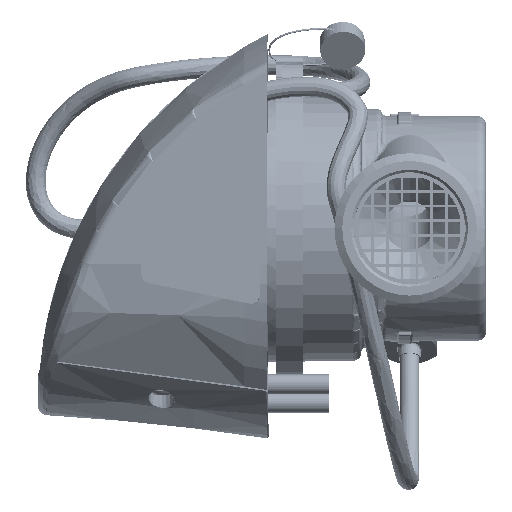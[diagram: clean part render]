
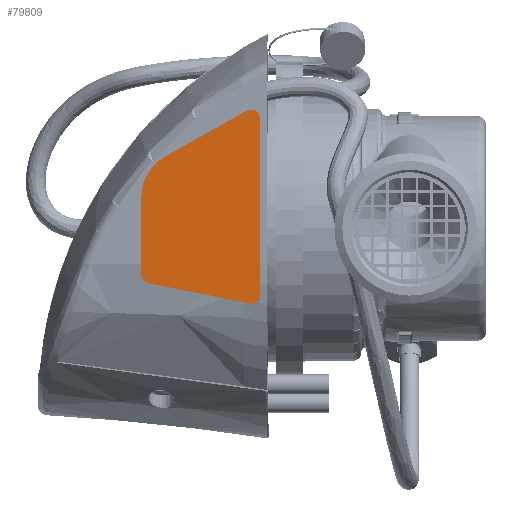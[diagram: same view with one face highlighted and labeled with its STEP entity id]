
A CAD part, left-side view. The second image highlights one B-rep face of the part: STEP entity #79809.
In plain terms, the highlighted planar face has unit normal (-0.995, 0.104, 0).
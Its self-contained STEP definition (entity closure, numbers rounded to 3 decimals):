
#2331 = CARTESIAN_POINT ( 'NONE',  ( -38.438, 52.261, 24.384 ) ) ;
#6112 = EDGE_CURVE ( 'NONE', #181382, #23254, #54017, .T. ) ;
#6840 = CARTESIAN_POINT ( 'NONE',  ( -38.438, 52.261, -14.765 ) ) ;
#15173 = ORIENTED_EDGE ( 'NONE', *, *, #150822, .T. ) ;
#16205 = EDGE_CURVE ( 'NONE', #27692, #66220, #62624, .T. ) ;
#23254 = VERTEX_POINT ( 'NONE', #149036 ) ;
#27692 = VERTEX_POINT ( 'NONE', #84338 ) ;
#27837 = CARTESIAN_POINT ( 'NONE',  ( -35.88, 76.599, -10.254 ) ) ;
#29046 = DIRECTION ( 'NONE',  ( -0.995, 0.105, 0. ) ) ;
#30438 = EDGE_LOOP ( 'NONE', ( #140491, #181009, #270239, #121936, #201007, #245493, #69536, #263355, #15173 ) ) ;
#31601 = AXIS2_PLACEMENT_3D ( 'NONE', #273623, #252624, #226010 ) ;
#33025 = CARTESIAN_POINT ( 'NONE',  ( -38.647, 50.272, -14.765 ) ) ;
#44849 = DIRECTION ( 'NONE',  ( -0.995, 0.105, 0. ) ) ;
#50017 = DIRECTION ( 'NONE',  ( 0., 0., 1. ) ) ;
#51656 = PLANE ( 'NONE',  #58661 ) ;
#54017 = LINE ( 'NONE', #33025, #220942 ) ;
#55780 = CARTESIAN_POINT ( 'NONE',  ( -38.438, 52.261, -14.765 ) ) ;
#58661 = AXIS2_PLACEMENT_3D ( 'NONE', #179858, #92509, #247397 ) ;
#62624 = CIRCLE ( 'NONE', #85171, 10. ) ;
#66220 = VERTEX_POINT ( 'NONE', #71122 ) ;
#67026 = DIRECTION ( 'NONE',  ( -0.995, 0.105, 0. ) ) ;
#69536 = ORIENTED_EDGE ( 'NONE', *, *, #6112, .T. ) ;
#71122 = CARTESIAN_POINT ( 'NONE',  ( -35.88, 76.599, 7.127 ) ) ;
#78321 = DIRECTION ( 'NONE',  ( -0.995, 0.105, 0. ) ) ;
#79351 = EDGE_CURVE ( 'NONE', #172223, #185538, #175876, .T. ) ;
#79809 = ADVANCED_FACE ( 'NONE', ( #134735 ), #51656, .T. ) ;
#79812 = EDGE_CURVE ( 'NONE', #66220, #227760, #96704, .T. ) ;
#84338 = CARTESIAN_POINT ( 'NONE',  ( -36.415, 71.507, 15.856 ) ) ;
#85171 = AXIS2_PLACEMENT_3D ( 'NONE', #175527, #29046, #241632 ) ;
#85459 = AXIS2_PLACEMENT_3D ( 'NONE', #6840, #44849, #91262 ) ;
#91262 = DIRECTION ( 'NONE',  ( 0., 0., -1. ) ) ;
#92509 = DIRECTION ( 'NONE',  ( -0.995, 0.105, 0. ) ) ;
#96544 = CARTESIAN_POINT ( 'NONE',  ( -38.438, 52.261, -16.765 ) ) ;
#96704 = LINE ( 'NONE', #27837, #202668 ) ;
#103739 = DIRECTION ( 'NONE',  ( 0.091, 0.868, -0.488 ) ) ;
#103764 = AXIS2_PLACEMENT_3D ( 'NONE', #55780, #78321, #119211 ) ;
#104564 = VECTOR ( 'NONE', #255383, 1000. ) ;
#111835 = VERTEX_POINT ( 'NONE', #126966 ) ;
#114562 = AXIS2_PLACEMENT_3D ( 'NONE', #2331, #67026, #50017 ) ;
#119211 = DIRECTION ( 'NONE',  ( 0., 0., -1. ) ) ;
#121936 = ORIENTED_EDGE ( 'NONE', *, *, #265634, .T. ) ;
#126966 = CARTESIAN_POINT ( 'NONE',  ( -38.336, 53.232, 26.13 ) ) ;
#134735 = FACE_OUTER_BOUND ( 'NONE', #30438, .T. ) ;
#140491 = ORIENTED_EDGE ( 'NONE', *, *, #16205, .T. ) ;
#143300 = LINE ( 'NONE', #274073, #145716 ) ;
#145716 = VECTOR ( 'NONE', #103739, 1000. ) ;
#149036 = CARTESIAN_POINT ( 'NONE',  ( -38.647, 50.272, 24.384 ) ) ;
#150822 = EDGE_CURVE ( 'NONE', #111835, #27692, #143300, .T. ) ;
#152897 = CIRCLE ( 'NONE', #31601, 2. ) ;
#158057 = EDGE_CURVE ( 'NONE', #23254, #111835, #235925, .T. ) ;
#172223 = VERTEX_POINT ( 'NONE', #271898 ) ;
#175527 = CARTESIAN_POINT ( 'NONE',  ( -36.925, 66.654, 7.127 ) ) ;
#175876 = CIRCLE ( 'NONE', #103764, 2. ) ;
#179858 = CARTESIAN_POINT ( 'NONE',  ( -36.925, 66.654, 7.127 ) ) ;
#181009 = ORIENTED_EDGE ( 'NONE', *, *, #79812, .T. ) ;
#181382 = VERTEX_POINT ( 'NONE', #272633 ) ;
#185142 = EDGE_CURVE ( 'NONE', #185538, #181382, #238517, .T. ) ;
#185538 = VERTEX_POINT ( 'NONE', #96544 ) ;
#201007 = ORIENTED_EDGE ( 'NONE', *, *, #79351, .T. ) ;
#202668 = VECTOR ( 'NONE', #266987, 1000. ) ;
#211225 = VERTEX_POINT ( 'NONE', #227638 ) ;
#220942 = VECTOR ( 'NONE', #263850, 1000. ) ;
#226010 = DIRECTION ( 'NONE',  ( 0., 0., 1. ) ) ;
#226169 = EDGE_CURVE ( 'NONE', #227760, #211225, #152897, .T. ) ;
#227638 = CARTESIAN_POINT ( 'NONE',  ( -36.048, 75.002, -12.215 ) ) ;
#227760 = VERTEX_POINT ( 'NONE', #278429 ) ;
#228803 = CARTESIAN_POINT ( 'NONE',  ( -36.048, 75.002, -12.215 ) ) ;
#234291 = LINE ( 'NONE', #228803, #104564 ) ;
#235925 = CIRCLE ( 'NONE', #114562, 2. ) ;
#238517 = CIRCLE ( 'NONE', #85459, 2. ) ;
#241632 = DIRECTION ( 'NONE',  ( 0., 0., 1. ) ) ;
#245493 = ORIENTED_EDGE ( 'NONE', *, *, #185142, .T. ) ;
#247397 = DIRECTION ( 'NONE',  ( 0., 0., 1. ) ) ;
#252624 = DIRECTION ( 'NONE',  ( -0.995, 0.105, 0. ) ) ;
#255383 = DIRECTION ( 'NONE',  ( -0.102, -0.975, -0.197 ) ) ;
#263355 = ORIENTED_EDGE ( 'NONE', *, *, #158057, .T. ) ;
#263850 = DIRECTION ( 'NONE',  ( 0., 0., 1. ) ) ;
#265634 = EDGE_CURVE ( 'NONE', #211225, #172223, #234291, .T. ) ;
#266987 = DIRECTION ( 'NONE',  ( 0., 0., -1. ) ) ;
#270239 = ORIENTED_EDGE ( 'NONE', *, *, #226169, .T. ) ;
#271898 = CARTESIAN_POINT ( 'NONE',  ( -38.397, 52.653, -16.726 ) ) ;
#272633 = CARTESIAN_POINT ( 'NONE',  ( -38.647, 50.272, -14.765 ) ) ;
#273623 = CARTESIAN_POINT ( 'NONE',  ( -36.089, 74.61, -10.254 ) ) ;
#274073 = CARTESIAN_POINT ( 'NONE',  ( -36.415, 71.507, 15.856 ) ) ;
#278429 = CARTESIAN_POINT ( 'NONE',  ( -35.88, 76.599, -10.254 ) ) ;
